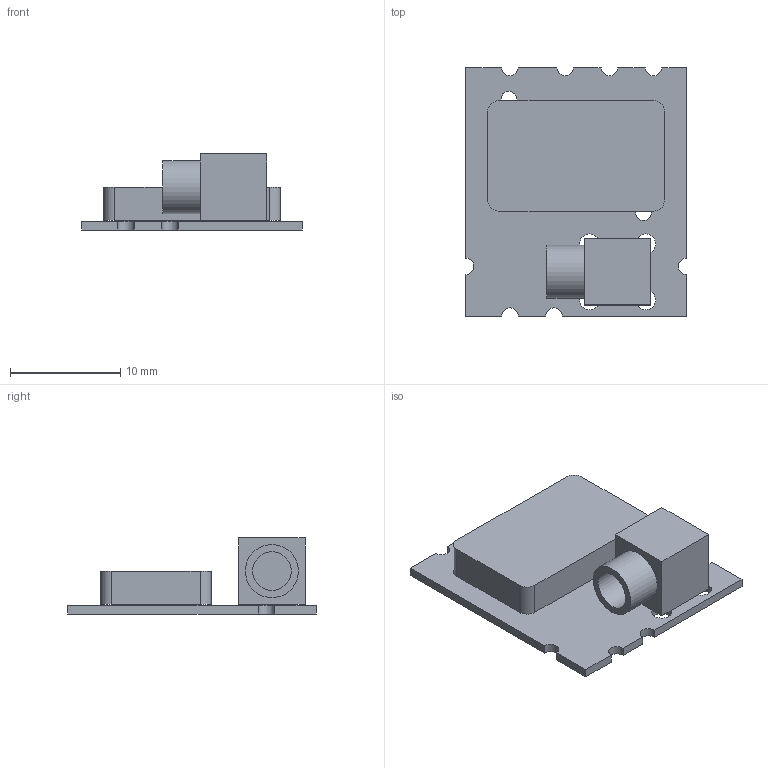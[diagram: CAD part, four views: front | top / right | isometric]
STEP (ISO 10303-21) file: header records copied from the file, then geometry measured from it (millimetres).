
FILE_DESCRIPTION(('KiCad electronic assembly'),'2;1');
FILE_NAME('pLna3.step','2026-02-11T15:58:20',('Pcbnew'),('Kicad'), 'Open CASCADE STEP processor 7.9','KiCad to STEP converter','Unknown' );
FILE_SCHEMA(('AUTOMOTIVE_DESIGN { 1 0 10303 214 1 1 1 1 }'));
Length unit declared in the file: millimetre
Products named in the file (11): pLna3 1; C_0603_1608Metric; pAntShield-BodyPad; L_0603_1608Metric; SOT-23-6; MCXbody-BodyPad002; MCXring; Body; Pad; Sketch; pLna3_PCB
Assembly tree (19 placements, depth 3):
  pLna3 1
    C_0603_1608Metric  x7
    pAntShield-BodyPad
    L_0603_1608Metric  x4
    SOT-23-6
    MCXbody-BodyPad002
    MCXring
      Body
      Pad
      Sketch
    pLna3_PCB
Bounding box: 20 x 22.5 x 6.88 mm (x, y, z)
Volume: 1110.7 mm3; surface area: 1952.8 mm2
Topology: 17 solids, 17 shells, 483 faces, 1249 edges, 823 vertices
Faces by surface type: plane 283, cylinder 184, bspline 16
Full cylindrical faces by diameter (mm): 1.2 x1, 1.4 x2, 1.8 x4, 3.5 x2, 4.8 x2
Entity records: 8821 total; most frequent: CARTESIAN_POINT 1317, DIRECTION 1202, ORIENTED_EDGE 1198, EDGE_CURVE 599, LINE 422, VECTOR 422, AXIS2_PLACEMENT_3D 390, VERTEX_POINT 389
